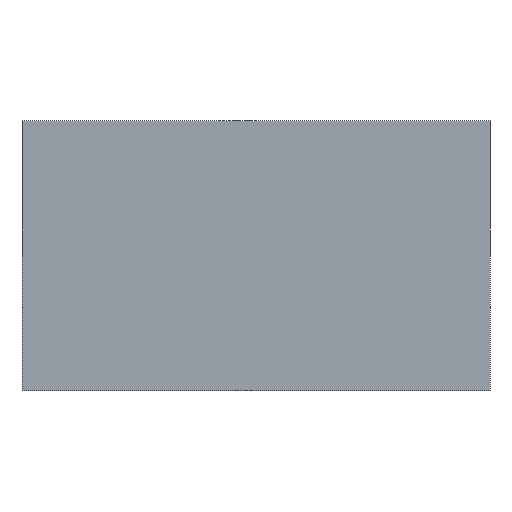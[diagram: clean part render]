
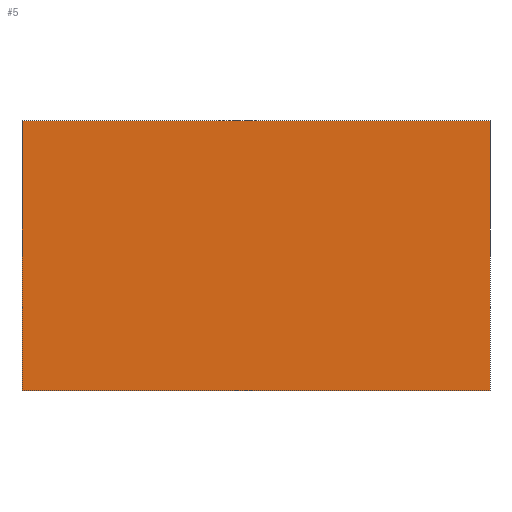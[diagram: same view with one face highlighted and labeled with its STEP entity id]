
A CAD part, front view. The second image highlights one B-rep face of the part: STEP entity #5.
In plain terms, the highlighted planar face has unit normal (0, -1, 0).
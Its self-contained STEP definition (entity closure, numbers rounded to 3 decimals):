
#5 = ADVANCED_FACE ( 'NONE', ( #606 ), #29, .F. ) ;
#28 = CARTESIAN_POINT ( 'NONE',  ( -104., 0., 120. ) ) ;
#29 = PLANE ( 'NONE',  #307 ) ;
#39 = VERTEX_POINT ( 'NONE', #155 ) ;
#42 = VERTEX_POINT ( 'NONE', #157 ) ;
#43 = VERTEX_POINT ( 'NONE', #158 ) ;
#51 = VERTEX_POINT ( 'NONE', #165 ) ;
#86 = DIRECTION ( 'NONE',  ( -1., 0., 0. ) ) ;
#88 = DIRECTION ( 'NONE',  ( 0., 1., 0. ) ) ;
#155 = CARTESIAN_POINT ( 'NONE',  ( 104., 0., 0. ) ) ;
#157 = CARTESIAN_POINT ( 'NONE',  ( 104., 0., 120. ) ) ;
#158 = CARTESIAN_POINT ( 'NONE',  ( -104., 0., 120. ) ) ;
#165 = CARTESIAN_POINT ( 'NONE',  ( -104., 0., 0. ) ) ;
#228 = CARTESIAN_POINT ( 'NONE',  ( -104., 0., 120. ) ) ;
#229 = DIRECTION ( 'NONE',  ( 0., 0., -1. ) ) ;
#262 = CARTESIAN_POINT ( 'NONE',  ( 104., 0., 120. ) ) ;
#263 = DIRECTION ( 'NONE',  ( 0., 0., -1. ) ) ;
#272 = CARTESIAN_POINT ( 'NONE',  ( -104., 0., 120. ) ) ;
#285 = DIRECTION ( 'NONE',  ( 1., 0., 0. ) ) ;
#286 = CARTESIAN_POINT ( 'NONE',  ( -104., 0., 0. ) ) ;
#287 = DIRECTION ( 'NONE',  ( 1., 0., 0. ) ) ;
#307 = AXIS2_PLACEMENT_3D ( 'NONE', #28, #88, #86 ) ;
#325 = EDGE_CURVE ( 'NONE', #43, #51, #458, .T. ) ;
#353 = EDGE_CURVE ( 'NONE', #42, #39, #564, .T. ) ;
#371 = EDGE_CURVE ( 'NONE', #43, #42, #471, .T. ) ;
#372 = EDGE_CURVE ( 'NONE', #51, #39, #709, .T. ) ;
#457 = VECTOR ( 'NONE', #229, 1000. ) ;
#458 = LINE ( 'NONE', #228, #457 ) ;
#471 = LINE ( 'NONE', #272, #699 ) ;
#529 = EDGE_LOOP ( 'NONE', ( #655, #547, #552, #613 ) ) ;
#547 = ORIENTED_EDGE ( 'NONE', *, *, #353, .F. ) ;
#552 = ORIENTED_EDGE ( 'NONE', *, *, #371, .F. ) ;
#564 = LINE ( 'NONE', #262, #723 ) ;
#606 = FACE_OUTER_BOUND ( 'NONE', #529, .T. ) ;
#613 = ORIENTED_EDGE ( 'NONE', *, *, #325, .T. ) ;
#655 = ORIENTED_EDGE ( 'NONE', *, *, #372, .T. ) ;
#699 = VECTOR ( 'NONE', #285, 1000. ) ;
#708 = VECTOR ( 'NONE', #287, 1000. ) ;
#709 = LINE ( 'NONE', #286, #708 ) ;
#723 = VECTOR ( 'NONE', #263, 1000. ) ;
